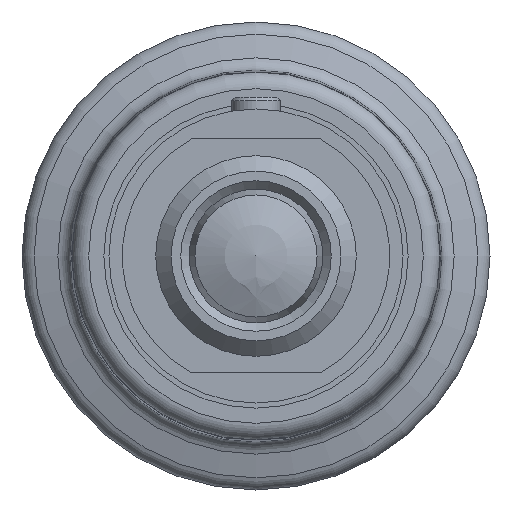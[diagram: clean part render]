
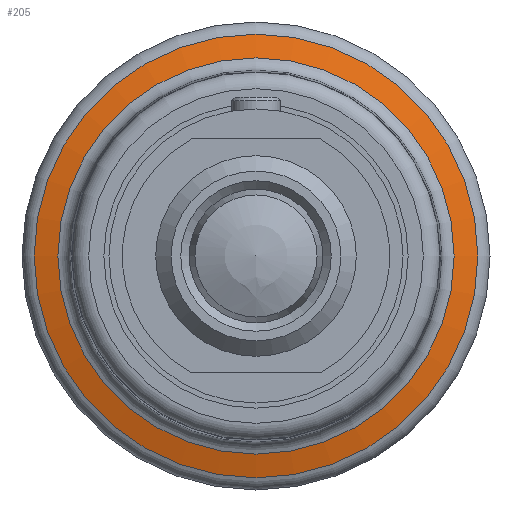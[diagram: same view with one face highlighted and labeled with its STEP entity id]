
A CAD part, left-side view. The second image highlights one B-rep face of the part: STEP entity #205.
In plain terms, the highlighted conical face has half-angle 74.478 degrees and reference radius 13.274 mm.
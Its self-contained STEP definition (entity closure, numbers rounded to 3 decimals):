
#205 = ADVANCED_FACE( '', ( #331, #332 ), #333, .T. );
#331 = FACE_BOUND( '', #485, .T. );
#332 = FACE_OUTER_BOUND( '', #486, .T. );
#333 = CONICAL_SURFACE( '', #487, 13.274, 1.3 );
#485 = EDGE_LOOP( '', ( #728 ) );
#486 = EDGE_LOOP( '', ( #729 ) );
#487 = AXIS2_PLACEMENT_3D( '', #730, #731, #732 );
#728 = ORIENTED_EDGE( '', *, *, #850, .F. );
#729 = ORIENTED_EDGE( '', *, *, #849, .T. );
#730 = CARTESIAN_POINT( '', ( 8.125, 0., 0. ) );
#731 = DIRECTION( '', ( -1., 0., 0. ) );
#732 = DIRECTION( '', ( 0., 0., 1. ) );
#849 = EDGE_CURVE( '', #949, #949, #950, .T. );
#850 = EDGE_CURVE( '', #951, #951, #952, .T. );
#949 = VERTEX_POINT( '', #1371 );
#950 = CIRCLE( '', #1372, 13.274 );
#951 = VERTEX_POINT( '', #1373 );
#952 = CIRCLE( '', #1374, 11.853 );
#1371 = CARTESIAN_POINT( '', ( 8.125, 0., -13.274 ) );
#1372 = AXIS2_PLACEMENT_3D( '', #1500, #1501, #1502 );
#1373 = CARTESIAN_POINT( '', ( 8.52, 0., -11.853 ) );
#1374 = AXIS2_PLACEMENT_3D( '', #1503, #1504, #1505 );
#1500 = CARTESIAN_POINT( '', ( 8.125, 0., 0. ) );
#1501 = DIRECTION( '', ( 1., 0., 0. ) );
#1502 = DIRECTION( '', ( 0., 0., -1. ) );
#1503 = CARTESIAN_POINT( '', ( 8.52, 0., 0. ) );
#1504 = DIRECTION( '', ( 1., 0., 0. ) );
#1505 = DIRECTION( '', ( 0., 0., -1. ) );
